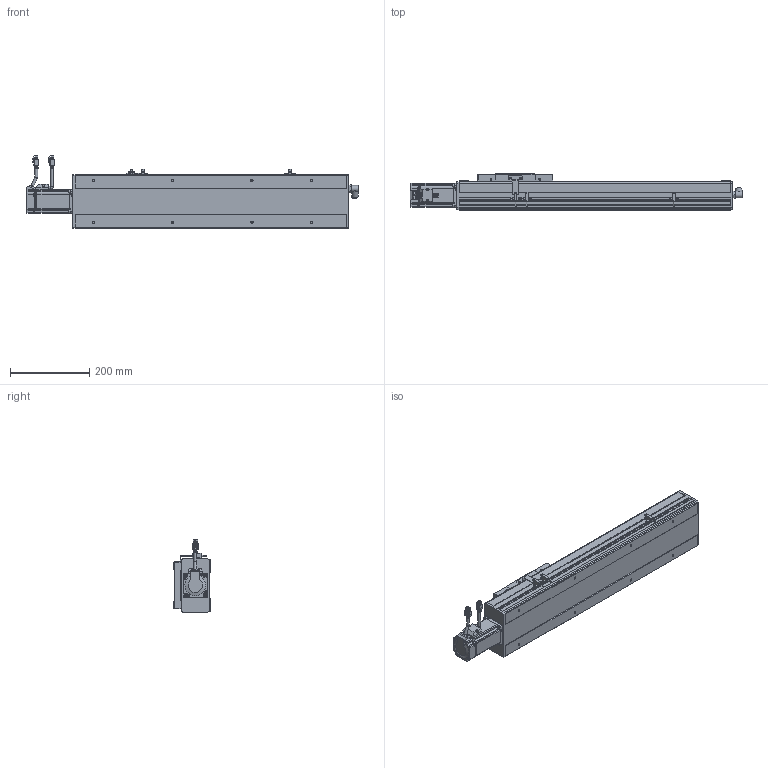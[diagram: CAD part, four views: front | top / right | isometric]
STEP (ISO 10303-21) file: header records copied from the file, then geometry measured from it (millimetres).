
FILE_DESCRIPTION(/* description */ ('STEP AP214'),/* implementation_level */ '2;1');
FILE_NAME(/* name */ 'PSC140-L05-S400-BC-P40-C1-N(0)',/* time_stamp */ '2022-06-13T03:13:29+02:00',/* author */ ('License CC BY-ND 4.0'),/* organization */ ('CADENAS'),/* preprocessor_version */ 'ST-DEVELOPER v18.102',/* originating_system */ 'PARTsolutions',/* authorisation */ ' ');
FILE_SCHEMA (('AUTOMOTIVE_DESIGN {1 0 10303 214 3 1 1}'));
Length unit declared in the file: millimetre
Products named in the file (10): PSC140-L05-S400-BC-P40-C1-N(0); P40-s2; P40-c2; P40-s1; P40-c1; P40-p1; PSC140-sensor; PSC140-BC-SLIDER; PSC140-S400-BC-P40-C1_BODY1; PSC140-L05-S400-BC-P40-C1-N(0)_dummy
Assembly tree (11 placements, depth 2):
  PSC140-L05-S400-BC-P40-C1-N(0)
    P40-s2
    P40-c2
    P40-s1
    P40-c1
    P40-p1
    PSC140-sensor  x3
    PSC140-BC-SLIDER
    PSC140-S400-BC-P40-C1_BODY1
    PSC140-L05-S400-BC-P40-C1-N(0)_dummy
Bounding box: 839 x 91 x 182.48 mm (x, y, z)
Volume: 7356713.1 mm3; surface area: 469942.4 mm2
Topology: 10 solids, 10 shells, 1238 faces, 3200 edges, 2115 vertices
Faces by surface type: plane 862, cylinder 313, cone 44, torus 19
Full cylindrical faces by diameter (mm): 1 x8, 2.6 x10, 2.8 x3, 3.3 x8, 4.5 x12, 4.6 x3, 4.917 x12, 5 x4, 5.5 x8, 6 x10, 6.08 x4, 7 x10, 9 x2, 10 x1, 11 x1, 13.74 x1, 14 x1, 16.4 x2, 16.5 x1, 19.98 x1, 31.98 x1, 35.5 x1, 50 x2
Entity records: 34238 total; most frequent: CARTESIAN_POINT 5983, DIRECTION 5755, ORIENTED_EDGE 5558, EDGE_CURVE 2779, LINE 2109, VECTOR 2109, VERTEX_POINT 1936, AXIS2_PLACEMENT_3D 1823
